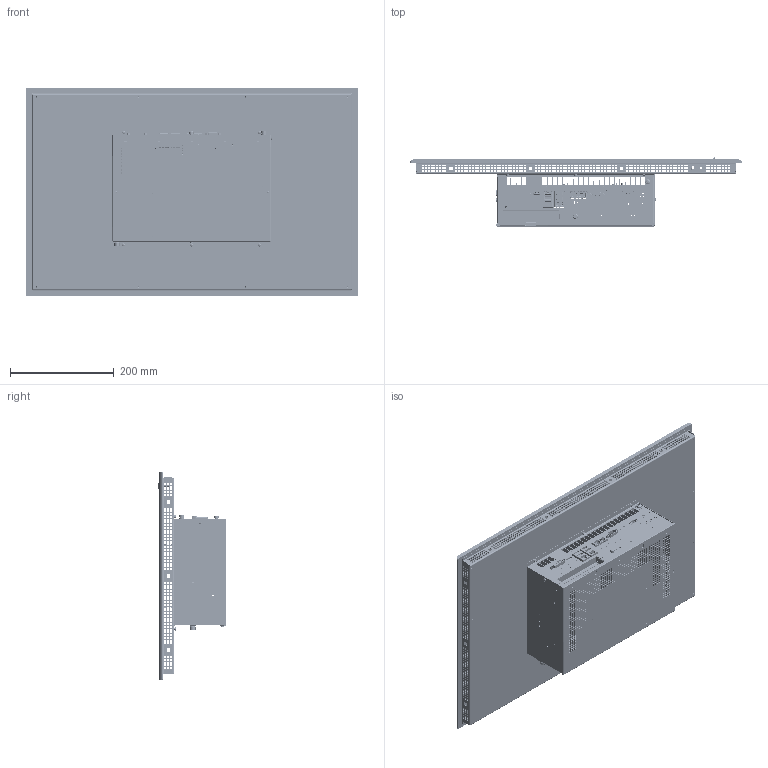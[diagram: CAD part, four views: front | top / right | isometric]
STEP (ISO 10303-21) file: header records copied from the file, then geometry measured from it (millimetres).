
FILE_DESCRIPTION (( 'STEP AP214' ), '1' );
FILE_NAME ('C6P34-Panel_240W_Res_S1.STEP', '2019-09-20T09:42:55', ( '' ), ( '' ), 'SwSTEP 2.0', 'SolidWorks 2018', '' );
FILE_SCHEMA (( 'AUTOMOTIVE_DESIGN' ));
Length unit declared in the file: millimetre
Products named in the file (163): 21404036; 51524089; 56636586; 14300025; piazzuola_de800_di370; 55202070; 66320015; 66320016; 21408088; 58755004; 21410056; 14300028; 7397_227; 69111028; 58702102_Default<A macchina>; 59702267; 21614000; 21502089; 58702102; 51702303_Default<A macchina>; 65720078; 65720029; 65720030; 51702303; 21509026; 21410015; 66320001; D02201703; 57936013; 21405029; 21409042; 21410046; 23330039; 69112004; 58102117; 52536147; 57902481; 52912002; 58502114; 21410052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
Assembly tree (116 placements, depth 4):
  51524089
  56636586
  14300025
  piazzuola_de800_di370
  66320015
Bounding box: 639.5 x 132.54 x 402 mm (x, y, z)
Volume: 2209357.7 mm3; surface area: 2127343.6 mm2
Topology: 224 solids, 242 shells, 29084 faces, 81986 edges, 53778 vertices
Faces by surface type: plane 22919, cylinder 4636, bspline 775, cone 619, torus 115, sphere 20
Full cylindrical faces by diameter (mm): 0.3 x9, 0.434 x1, 0.6 x30, 0.65 x6, 0.7 x165, 0.8 x36, 0.85 x66, 0.9 x175, 0.95 x11, 1 x119, 1.1 x3, 1.2 x10, 1.32 x2, 1.35 x4, 1.4 x8, 1.5 x6, 1.6 x7, 1.7 x4, 1.8 x3, 1.9 x4, 1.95 x4, 2 x1, 2.05 x1, 2.3 x18, 2.4 x9, 2.5 x32, 2.6 x5, 2.8 x3, 2.874 x1, 3 x78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
Entity records: 872467 total; most frequent: CARTESIAN_POINT 181494, ORIENTED_EDGE 142884, DIRECTION 126338, EDGE_CURVE 71832, LINE 61566, VECTOR 61566, VERTEX_POINT 47831, EDGE_LOOP 33882
